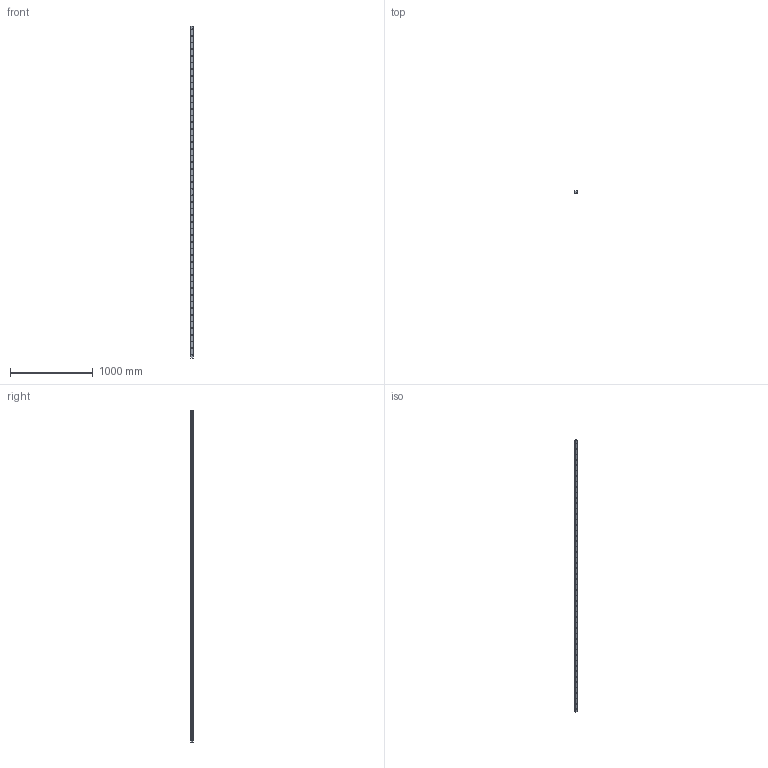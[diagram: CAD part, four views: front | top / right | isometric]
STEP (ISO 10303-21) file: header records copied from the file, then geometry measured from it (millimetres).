
FILE_DESCRIPTION (( 'STEP AP203' ), '1' );
FILE_NAME ('TR35-4000.STEP', '2019-05-29T10:35:46', ( '' ), ( '' ), 'SwSTEP 2.0', 'SolidWorks 2016', '' );
FILE_SCHEMA (( 'CONFIG_CONTROL_DESIGN' ));
Length unit declared in the file: millimetre
Products named in the file (1): TR35-4000
Bounding box: 34 x 29 x 4000 mm (x, y, z)
Volume: 3521782.8 mm3; surface area: 541735.9 mm2
Topology: 1 solids, 1 shells, 376 faces, 872 edges, 498 vertices
Faces by surface type: cylinder 206, cone 100, plane 70
Entity records: 10105 total; most frequent: DIRECTION 1938, CARTESIAN_POINT 1647, ORIENTED_EDGE 1544, AXIS2_PLACEMENT_3D 789, EDGE_CURVE 772, VERTEX_POINT 498, EDGE_LOOP 476, CIRCLE 412
